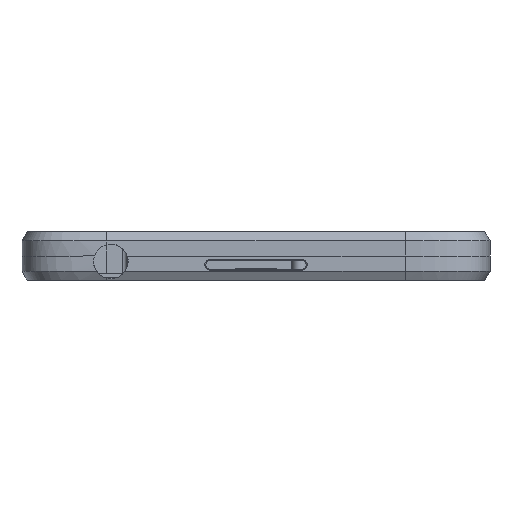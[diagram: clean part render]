
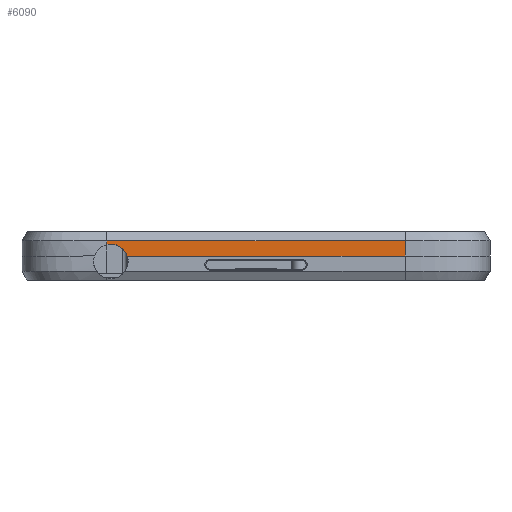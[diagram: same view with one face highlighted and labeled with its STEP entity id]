
A CAD part, front view. The second image highlights one B-rep face of the part: STEP entity #6090.
In plain terms, the highlighted planar face has unit normal (0, -1, 0).
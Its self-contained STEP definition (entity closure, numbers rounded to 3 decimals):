
#238 = VERTEX_POINT ( 'NONE', #4665 ) ;
#561 = FACE_OUTER_BOUND ( 'NONE', #5697, .T. ) ;
#702 = ORIENTED_EDGE ( 'NONE', *, *, #10544, .F. ) ;
#703 = EDGE_CURVE ( 'NONE', #5756, #3477, #3561, .T. ) ;
#766 = CARTESIAN_POINT ( 'NONE',  ( 22., -69., 0. ) ) ;
#2502 = VECTOR ( 'NONE', #7783, 1000. ) ;
#3257 = VECTOR ( 'NONE', #3344, 1000. ) ;
#3344 = DIRECTION ( 'NONE',  ( 0., 0., 1. ) ) ;
#3477 = VERTEX_POINT ( 'NONE', #7054 ) ;
#3518 = DIRECTION ( 'NONE',  ( 0., 0., 1. ) ) ;
#3561 = LINE ( 'NONE', #9448, #8390 ) ;
#3577 = DIRECTION ( 'NONE',  ( 0., 0., -1. ) ) ;
#3770 = CARTESIAN_POINT ( 'NONE',  ( -21.4, -69., -0.8 ) ) ;
#4342 = CARTESIAN_POINT ( 'NONE',  ( 22., -69., 0. ) ) ;
#4600 = EDGE_CURVE ( 'NONE', #238, #10106, #14006, .T. ) ;
#4665 = CARTESIAN_POINT ( 'NONE',  ( -18.979, -69., 0. ) ) ;
#4666 = LINE ( 'NONE', #15141, #8133 ) ;
#4989 = DIRECTION ( 'NONE',  ( 0., -1., 0. ) ) ;
#5148 = DIRECTION ( 'NONE',  ( 0., -1., 0. ) ) ;
#5697 = EDGE_LOOP ( 'NONE', ( #8537, #13420, #7570, #7002, #702, #9156 ) ) ;
#5721 = DIRECTION ( 'NONE',  ( 0., -1., 0. ) ) ;
#5756 = VERTEX_POINT ( 'NONE', #12044 ) ;
#5872 = AXIS2_PLACEMENT_3D ( 'NONE', #12471, #5148, #9816 ) ;
#6090 = ADVANCED_FACE ( 'NONE', ( #561 ), #13392, .T. ) ;
#7002 = ORIENTED_EDGE ( 'NONE', *, *, #703, .T. ) ;
#7054 = CARTESIAN_POINT ( 'NONE',  ( -22., -69., 2.214 ) ) ;
#7412 = AXIS2_PLACEMENT_3D ( 'NONE', #13959, #5721, #3577 ) ;
#7570 = ORIENTED_EDGE ( 'NONE', *, *, #10931, .T. ) ;
#7783 = DIRECTION ( 'NONE',  ( -1., 0., 0. ) ) ;
#8133 = VECTOR ( 'NONE', #3518, 1000. ) ;
#8222 = CARTESIAN_POINT ( 'NONE',  ( -22., -69., 1.678 ) ) ;
#8390 = VECTOR ( 'NONE', #14097, 1000. ) ;
#8537 = ORIENTED_EDGE ( 'NONE', *, *, #4600, .F. ) ;
#9068 = CARTESIAN_POINT ( 'NONE',  ( -22., -69., 0. ) ) ;
#9156 = ORIENTED_EDGE ( 'NONE', *, *, #14360, .F. ) ;
#9295 = VERTEX_POINT ( 'NONE', #8222 ) ;
#9427 = LINE ( 'NONE', #9068, #3257 ) ;
#9440 = AXIS2_PLACEMENT_3D ( 'NONE', #3770, #4989, #11799 ) ;
#9448 = CARTESIAN_POINT ( 'NONE',  ( 22., -69., 2.214 ) ) ;
#9816 = DIRECTION ( 'NONE',  ( 0., 0., -1. ) ) ;
#9894 = EDGE_CURVE ( 'NONE', #13932, #238, #10090, .T. ) ;
#10090 = LINE ( 'NONE', #766, #2502 ) ;
#10106 = VERTEX_POINT ( 'NONE', #10382 ) ;
#10382 = CARTESIAN_POINT ( 'NONE',  ( -21.4, -69., 1.75 ) ) ;
#10544 = EDGE_CURVE ( 'NONE', #9295, #3477, #9427, .T. ) ;
#10931 = EDGE_CURVE ( 'NONE', #13932, #5756, #4666, .T. ) ;
#11799 = DIRECTION ( 'NONE',  ( 0., 0., -1. ) ) ;
#12044 = CARTESIAN_POINT ( 'NONE',  ( 22., -69., 2.214 ) ) ;
#12471 = CARTESIAN_POINT ( 'NONE',  ( 22., -69., 0. ) ) ;
#13392 = PLANE ( 'NONE',  #5872 ) ;
#13420 = ORIENTED_EDGE ( 'NONE', *, *, #9894, .F. ) ;
#13932 = VERTEX_POINT ( 'NONE', #4342 ) ;
#13959 = CARTESIAN_POINT ( 'NONE',  ( -21.4, -69., -0.8 ) ) ;
#14006 = CIRCLE ( 'NONE', #7412, 2.55 ) ;
#14064 = CIRCLE ( 'NONE', #9440, 2.55 ) ;
#14097 = DIRECTION ( 'NONE',  ( -1., 0., 0. ) ) ;
#14360 = EDGE_CURVE ( 'NONE', #10106, #9295, #14064, .T. ) ;
#15141 = CARTESIAN_POINT ( 'NONE',  ( 22., -69., 0. ) ) ;
